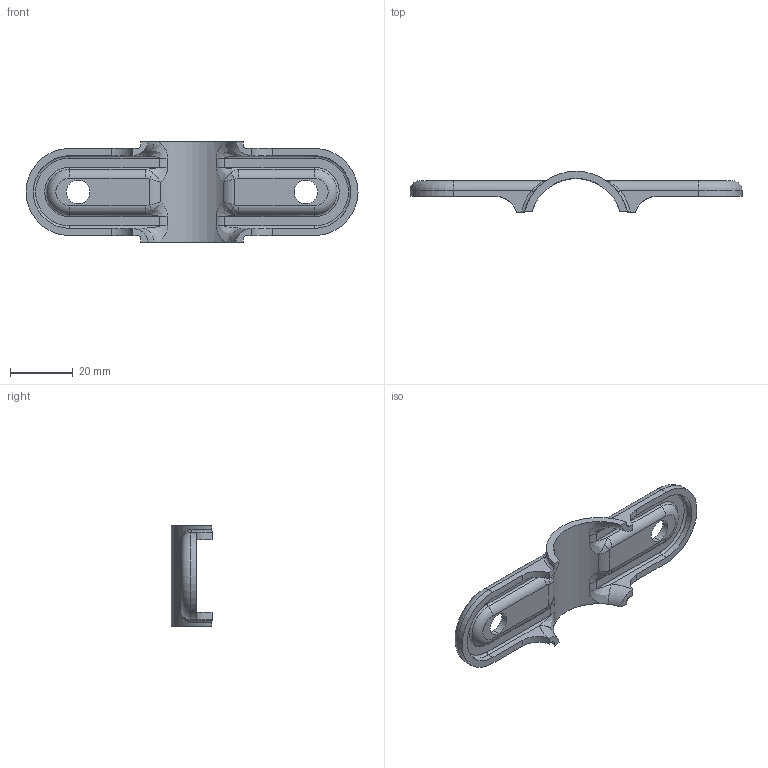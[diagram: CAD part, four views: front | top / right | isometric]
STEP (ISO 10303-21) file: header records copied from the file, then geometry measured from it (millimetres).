
FILE_DESCRIPTION (( 'STEP AP203' ), '1' );
FILE_NAME ('015.100.014.STEP', '2016-10-24T07:36:17', ( '' ), ( '' ), 'SwSTEP 2.0', 'SolidWorks 2016', '' );
FILE_SCHEMA (( 'CONFIG_CONTROL_DESIGN' ));
Length unit declared in the file: millimetre
Products named in the file (1): 015.100.014
Bounding box: 105.7 x 13.17 x 32 mm (x, y, z)
Volume: 8034.7 mm3; surface area: 7857.1 mm2
Topology: 1 solids, 1 shells, 110 faces, 280 edges, 168 vertices
Faces by surface type: cylinder 44, plane 24, bspline 24, torus 18
Entity records: 4835 total; most frequent: CARTESIAN_POINT 2271, ORIENTED_EDGE 552, DIRECTION 492, EDGE_CURVE 276, AXIS2_PLACEMENT_3D 197, VERTEX_POINT 168, EDGE_LOOP 114, ADVANCED_FACE 110
